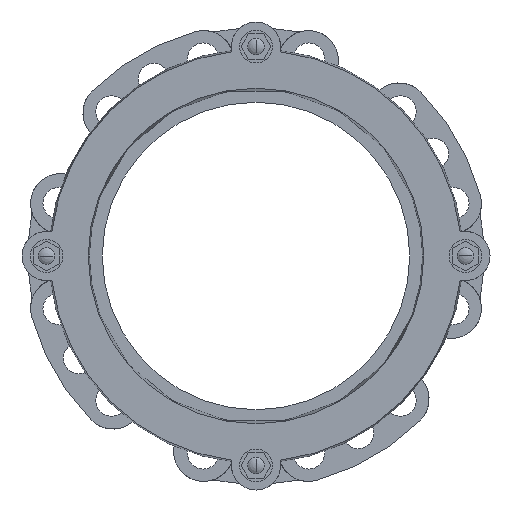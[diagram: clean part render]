
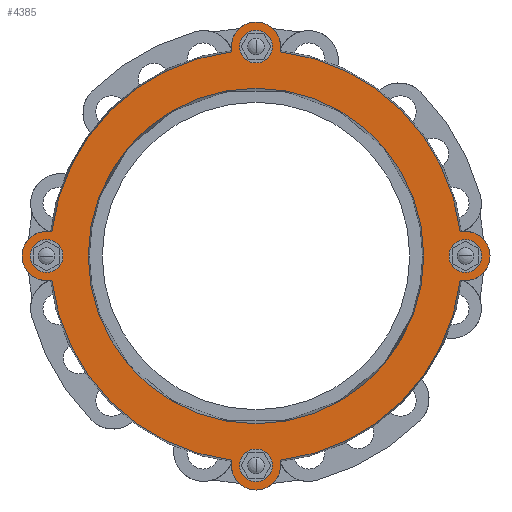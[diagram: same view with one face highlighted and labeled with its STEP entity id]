
A CAD part, left-side view. The second image highlights one B-rep face of the part: STEP entity #4385.
In plain terms, the highlighted planar face has unit normal (-1, 0, 0).
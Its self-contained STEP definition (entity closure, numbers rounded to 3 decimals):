
#125=CARTESIAN_POINT('',(-102.,0.,-153.25));
#126=DIRECTION('',(-1.,0.,0.));
#127=DIRECTION('',(0.,0.,-1.));
#128=AXIS2_PLACEMENT_3D('',#125,#126,#127);
#130=CARTESIAN_POINT('',(-102.,0.,-153.25));
#131=DIRECTION('',(-1.,0.,0.));
#132=DIRECTION('',(0.,0.,1.));
#133=AXIS2_PLACEMENT_3D('',#130,#131,#132);
#135=CARTESIAN_POINT('',(-102.,-153.25,0.));
#136=DIRECTION('',(-1.,0.,0.));
#137=DIRECTION('',(0.,-1.,0.));
#138=AXIS2_PLACEMENT_3D('',#135,#136,#137);
#140=CARTESIAN_POINT('',(-102.,-153.25,0.));
#141=DIRECTION('',(-1.,0.,0.));
#142=DIRECTION('',(0.,1.,0.));
#143=AXIS2_PLACEMENT_3D('',#140,#141,#142);
#145=CARTESIAN_POINT('',(-102.,0.,153.25));
#146=DIRECTION('',(-1.,0.,0.));
#147=DIRECTION('',(0.,0.,1.));
#148=AXIS2_PLACEMENT_3D('',#145,#146,#147);
#150=CARTESIAN_POINT('',(-102.,0.,153.25));
#151=DIRECTION('',(-1.,0.,0.));
#152=DIRECTION('',(0.,0.,-1.));
#153=AXIS2_PLACEMENT_3D('',#150,#151,#152);
#155=CARTESIAN_POINT('',(-102.,153.25,0.));
#156=DIRECTION('',(-1.,0.,0.));
#157=DIRECTION('',(0.,1.,0.));
#158=AXIS2_PLACEMENT_3D('',#155,#156,#157);
#160=CARTESIAN_POINT('',(-102.,153.25,0.));
#161=DIRECTION('',(-1.,0.,0.));
#162=DIRECTION('',(0.,-1.,0.));
#163=AXIS2_PLACEMENT_3D('',#160,#161,#162);
#165=CARTESIAN_POINT('',(-102.,0.,0.));
#166=DIRECTION('',(-1.,0.,0.));
#167=DIRECTION('',(0.,-0.12,-0.993));
#168=AXIS2_PLACEMENT_3D('',#165,#166,#167);
#170=DIRECTION('',(0.,0.,1.));
#171=VECTOR('',#170,3.83);
#172=CARTESIAN_POINT('',(-102.,-18.,-153.25));
#173=LINE('',#172,#171);
#174=CARTESIAN_POINT('',(-102.,0.,-153.25));
#175=DIRECTION('',(-1.,0.,0.));
#176=DIRECTION('',(0.,1.,0.));
#177=AXIS2_PLACEMENT_3D('',#174,#175,#176);
#179=DIRECTION('',(0.,0.,-1.));
#180=VECTOR('',#179,3.83);
#181=CARTESIAN_POINT('',(-102.,18.,-149.42));
#182=LINE('',#181,#180);
#183=CARTESIAN_POINT('',(-102.,0.,0.));
#184=DIRECTION('',(-1.,0.,0.));
#185=DIRECTION('',(0.,0.993,-0.12));
#186=AXIS2_PLACEMENT_3D('',#183,#184,#185);
#188=DIRECTION('',(0.,-1.,0.));
#189=VECTOR('',#188,3.83);
#190=CARTESIAN_POINT('',(-102.,153.25,-18.));
#191=LINE('',#190,#189);
#192=CARTESIAN_POINT('',(-102.,153.25,0.));
#193=DIRECTION('',(-1.,0.,0.));
#194=DIRECTION('',(0.,0.,1.));
#195=AXIS2_PLACEMENT_3D('',#192,#193,#194);
#197=DIRECTION('',(0.,1.,0.));
#198=VECTOR('',#197,3.83);
#199=CARTESIAN_POINT('',(-102.,149.42,18.));
#200=LINE('',#199,#198);
#201=CARTESIAN_POINT('',(-102.,0.,0.));
#202=DIRECTION('',(1.,0.,0.));
#203=DIRECTION('',(0.,0.993,0.12));
#204=AXIS2_PLACEMENT_3D('',#201,#202,#203);
#206=DIRECTION('',(0.,0.,-1.));
#207=VECTOR('',#206,3.83);
#208=CARTESIAN_POINT('',(-102.,18.,153.25));
#209=LINE('',#208,#207);
#210=CARTESIAN_POINT('',(-102.,0.,153.25));
#211=DIRECTION('',(-1.,0.,0.));
#212=DIRECTION('',(0.,-1.,0.));
#213=AXIS2_PLACEMENT_3D('',#210,#211,#212);
#215=DIRECTION('',(0.,0.,1.));
#216=VECTOR('',#215,3.83);
#217=CARTESIAN_POINT('',(-102.,-18.,149.42));
#218=LINE('',#217,#216);
#219=CARTESIAN_POINT('',(-102.,0.,0.));
#220=DIRECTION('',(1.,0.,0.));
#221=DIRECTION('',(0.,-0.12,0.993));
#222=AXIS2_PLACEMENT_3D('',#219,#220,#221);
#224=DIRECTION('',(0.,1.,0.));
#225=VECTOR('',#224,3.83);
#226=CARTESIAN_POINT('',(-102.,-153.25,18.));
#227=LINE('',#226,#225);
#228=CARTESIAN_POINT('',(-102.,-153.25,0.));
#229=DIRECTION('',(-1.,0.,0.));
#230=DIRECTION('',(0.,0.,-1.));
#231=AXIS2_PLACEMENT_3D('',#228,#229,#230);
#233=DIRECTION('',(0.,-1.,0.));
#234=VECTOR('',#233,3.83);
#235=CARTESIAN_POINT('',(-102.,-149.42,-18.));
#236=LINE('',#235,#234);
#621=CARTESIAN_POINT('',(-102.,0.,0.));
#622=DIRECTION('',(1.,0.,0.));
#623=DIRECTION('',(0.,1.,0.));
#624=AXIS2_PLACEMENT_3D('',#621,#622,#623);
#634=CARTESIAN_POINT('',(-102.,0.,0.));
#635=DIRECTION('',(-1.,0.,0.));
#636=DIRECTION('',(0.,1.,0.));
#637=AXIS2_PLACEMENT_3D('',#634,#635,#636);
#3266=CARTESIAN_POINT('',(-102.,153.25,18.));
#3267=CARTESIAN_POINT('',(-102.,153.25,-18.));
#3268=VERTEX_POINT('',#3266);
#3269=VERTEX_POINT('',#3267);
#3270=CARTESIAN_POINT('',(-102.,149.42,-18.));
#3271=VERTEX_POINT('',#3270);
#3272=CARTESIAN_POINT('',(-102.,149.42,18.));
#3273=VERTEX_POINT('',#3272);
#3346=CARTESIAN_POINT('',(-102.,165.25,0.));
#3347=CARTESIAN_POINT('',(-102.,141.25,0.));
#3348=VERTEX_POINT('',#3346);
#3349=VERTEX_POINT('',#3347);
#3840=CARTESIAN_POINT('',(-102.,122.75,0.));
#3842=VERTEX_POINT('',#3840);
#3844=CARTESIAN_POINT('',(-102.,-122.75,0.));
#3846=VERTEX_POINT('',#3844);
#3868=CARTESIAN_POINT('',(-102.,-18.,153.25));
#3869=CARTESIAN_POINT('',(-102.,18.,153.25));
#3870=VERTEX_POINT('',#3868);
#3871=VERTEX_POINT('',#3869);
#3872=CARTESIAN_POINT('',(-102.,18.,149.42));
#3873=VERTEX_POINT('',#3872);
#3874=CARTESIAN_POINT('',(-102.,-18.,149.42));
#3875=VERTEX_POINT('',#3874);
#3876=CARTESIAN_POINT('',(-102.,-153.25,-18.));
#3877=CARTESIAN_POINT('',(-102.,-153.25,18.));
#3878=VERTEX_POINT('',#3876);
#3879=VERTEX_POINT('',#3877);
#3880=CARTESIAN_POINT('',(-102.,-149.42,18.));
#3881=VERTEX_POINT('',#3880);
#3882=CARTESIAN_POINT('',(-102.,-149.42,-18.));
#3883=VERTEX_POINT('',#3882);
#3884=CARTESIAN_POINT('',(-102.,18.,-153.25));
#3885=CARTESIAN_POINT('',(-102.,-18.,-153.25));
#3886=VERTEX_POINT('',#3884);
#3887=VERTEX_POINT('',#3885);
#3888=CARTESIAN_POINT('',(-102.,18.,-149.42));
#3889=VERTEX_POINT('',#3888);
#3890=CARTESIAN_POINT('',(-102.,-18.,-149.42));
#3891=VERTEX_POINT('',#3890);
#3980=CARTESIAN_POINT('',(-102.,0.,165.25));
#3981=CARTESIAN_POINT('',(-102.,0.,141.25));
#3982=VERTEX_POINT('',#3980);
#3983=VERTEX_POINT('',#3981);
#4002=CARTESIAN_POINT('',(-102.,-165.25,0.));
#4003=CARTESIAN_POINT('',(-102.,-141.25,0.));
#4004=VERTEX_POINT('',#4002);
#4005=VERTEX_POINT('',#4003);
#4024=CARTESIAN_POINT('',(-102.,0.,-165.25));
#4025=CARTESIAN_POINT('',(-102.,0.,-141.25));
#4026=VERTEX_POINT('',#4024);
#4027=VERTEX_POINT('',#4025);
#4317=CARTESIAN_POINT('',(-102.,0.,0.));
#4318=DIRECTION('',(1.,0.,0.));
#4319=DIRECTION('',(0.,-1.,0.));
#4320=AXIS2_PLACEMENT_3D('',#4317,#4318,#4319);
#4321=PLANE('',#4320);
#4323=ORIENTED_EDGE('',*,*,#4322,.F.);
#4325=ORIENTED_EDGE('',*,*,#4324,.F.);
#4327=ORIENTED_EDGE('',*,*,#4326,.F.);
#4329=ORIENTED_EDGE('',*,*,#4328,.F.);
#4331=ORIENTED_EDGE('',*,*,#4330,.F.);
#4333=ORIENTED_EDGE('',*,*,#4332,.F.);
#4335=ORIENTED_EDGE('',*,*,#4334,.F.);
#4337=ORIENTED_EDGE('',*,*,#4336,.F.);
#4339=ORIENTED_EDGE('',*,*,#4338,.T.);
#4341=ORIENTED_EDGE('',*,*,#4340,.F.);
#4343=ORIENTED_EDGE('',*,*,#4342,.F.);
#4345=ORIENTED_EDGE('',*,*,#4344,.F.);
#4347=ORIENTED_EDGE('',*,*,#4346,.T.);
#4349=ORIENTED_EDGE('',*,*,#4348,.F.);
#4351=ORIENTED_EDGE('',*,*,#4350,.F.);
#4353=ORIENTED_EDGE('',*,*,#4352,.F.);
#4354=EDGE_LOOP('',(#4323,#4325,#4327,#4329,#4331,#4333,#4335,#4337,#4339,#4341,
#4343,#4345,#4347,#4349,#4351,#4353));
#4355=FACE_OUTER_BOUND('',#4354,.F.);
#4357=ORIENTED_EDGE('',*,*,#4356,.T.);
#4359=ORIENTED_EDGE('',*,*,#4358,.T.);
#4360=EDGE_LOOP('',(#4357,#4359));
#4361=FACE_BOUND('',#4360,.F.);
#4363=ORIENTED_EDGE('',*,*,#4362,.T.);
#4365=ORIENTED_EDGE('',*,*,#4364,.T.);
#4366=EDGE_LOOP('',(#4363,#4365));
#4367=FACE_BOUND('',#4366,.F.);
#4369=ORIENTED_EDGE('',*,*,#4368,.F.);
#4371=ORIENTED_EDGE('',*,*,#4370,.T.);
#4372=EDGE_LOOP('',(#4369,#4371));
#4373=FACE_BOUND('',#4372,.F.);
#4375=ORIENTED_EDGE('',*,*,#4374,.T.);
#4376=ORIENTED_EDGE('',*,*,#4307,.T.);
#4377=EDGE_LOOP('',(#4375,#4376));
#4378=FACE_BOUND('',#4377,.F.);
#4380=ORIENTED_EDGE('',*,*,#4379,.T.);
#4382=ORIENTED_EDGE('',*,*,#4381,.T.);
#4383=EDGE_LOOP('',(#4380,#4382));
#4384=FACE_BOUND('',#4383,.F.);
#4385=ADVANCED_FACE('',(#4355,#4361,#4367,#4373,#4378,#4384),#4321,.F.);
#129=CIRCLE('',#128,12.);
#134=CIRCLE('',#133,12.);
#139=CIRCLE('',#138,12.);
#144=CIRCLE('',#143,12.);
#149=CIRCLE('',#148,12.);
#154=CIRCLE('',#153,12.);
#159=CIRCLE('',#158,12.);
#164=CIRCLE('',#163,12.);
#169=CIRCLE('',#168,150.5);
#178=CIRCLE('',#177,18.);
#187=CIRCLE('',#186,150.5);
#196=CIRCLE('',#195,18.);
#205=CIRCLE('',#204,150.5);
#214=CIRCLE('',#213,18.);
#223=CIRCLE('',#222,150.5);
#232=CIRCLE('',#231,18.);
#625=CIRCLE('',#624,122.75);
#638=CIRCLE('',#637,122.75);
#4307=EDGE_CURVE('',#3349,#3348,#164,.T.);
#4322=EDGE_CURVE('',#3891,#3883,#169,.T.);
#4324=EDGE_CURVE('',#3887,#3891,#173,.T.);
#4326=EDGE_CURVE('',#3886,#3887,#178,.T.);
#4328=EDGE_CURVE('',#3889,#3886,#182,.T.);
#4330=EDGE_CURVE('',#3271,#3889,#187,.T.);
#4332=EDGE_CURVE('',#3269,#3271,#191,.T.);
#4334=EDGE_CURVE('',#3268,#3269,#196,.T.);
#4336=EDGE_CURVE('',#3273,#3268,#200,.T.);
#4338=EDGE_CURVE('',#3273,#3873,#205,.T.);
#4340=EDGE_CURVE('',#3871,#3873,#209,.T.);
#4342=EDGE_CURVE('',#3870,#3871,#214,.T.);
#4344=EDGE_CURVE('',#3875,#3870,#218,.T.);
#4346=EDGE_CURVE('',#3875,#3881,#223,.T.);
#4348=EDGE_CURVE('',#3879,#3881,#227,.T.);
#4350=EDGE_CURVE('',#3878,#3879,#232,.T.);
#4352=EDGE_CURVE('',#3883,#3878,#236,.T.);
#4356=EDGE_CURVE('',#4004,#4005,#139,.T.);
#4358=EDGE_CURVE('',#4005,#4004,#144,.T.);
#4362=EDGE_CURVE('',#3982,#3983,#149,.T.);
#4364=EDGE_CURVE('',#3983,#3982,#154,.T.);
#4368=EDGE_CURVE('',#3842,#3846,#625,.T.);
#4370=EDGE_CURVE('',#3842,#3846,#638,.T.);
#4374=EDGE_CURVE('',#3348,#3349,#159,.T.);
#4379=EDGE_CURVE('',#4026,#4027,#129,.T.);
#4381=EDGE_CURVE('',#4027,#4026,#134,.T.);
